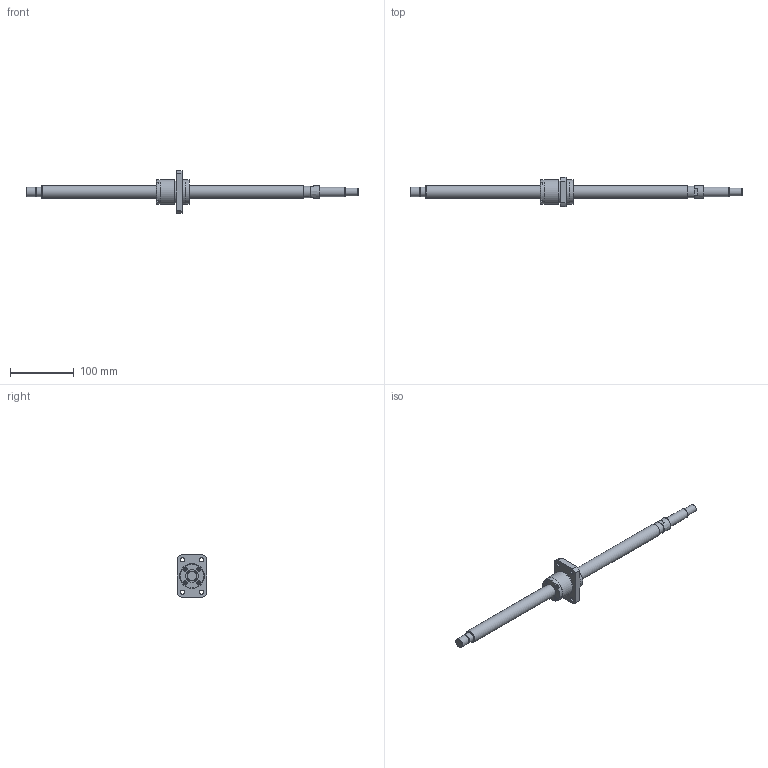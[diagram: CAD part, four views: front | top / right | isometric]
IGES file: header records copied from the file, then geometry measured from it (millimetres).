
Start section: Data from Parasolid IGES Translator 26.0.171, Copyright(c) 2006 Siemens PLM Software. All Rights Reserved.
Global section: file name: BNK2020-3.6G0+520LC5Y(2310).igs; native system: By Siemens PLM Incorporated; preprocessor: XPlus GENERIC/IGES 26.0.171; author: Noname; organization: Noname; date: 20240709.093959; units: millimetre
Bounding box: 520 x 46 x 66 mm (x, y, z)
Surface area: 49365.1 mm2 (no closed solid volume)
Topology: 0 solids, 0 shells, 139 faces, 643 edges, 579 vertices
Faces by surface type: extrusion 75, revolution 64
